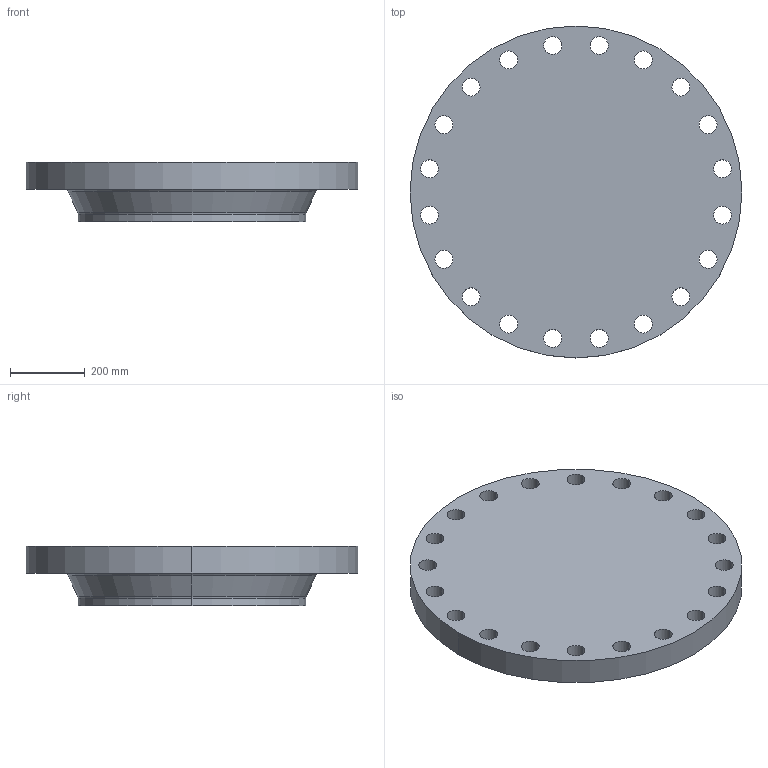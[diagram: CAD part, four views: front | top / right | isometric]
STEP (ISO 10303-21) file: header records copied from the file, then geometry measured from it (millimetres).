
FILE_DESCRIPTION (( 'STEP AP214' ), '1' );
FILE_NAME ('PN40 DN600 Type 21(ii) - Type A Face.STEP', '2018-12-29T04:39:02', ( '' ), ( '' ), 'SwSTEP 2.0', 'SolidWorks 2019', '' );
FILE_SCHEMA (( 'AUTOMOTIVE_DESIGN' ));
Length unit declared in the file: millimetre
Products named in the file (1): PN40 DN600 Type 21(ii) - Type A Face
Bounding box: 890 x 890 x 160 mm (x, y, z)
Volume: 69889345 mm3; surface area: 1713936.3 mm2
Topology: 1 solids, 1 shells, 53 faces, 144 edges, 94 vertices
Faces by surface type: cylinder 44, torus 4, plane 3, cone 2
Entity records: 1842 total; most frequent: DIRECTION 350, CARTESIAN_POINT 292, ORIENTED_EDGE 288, AXIS2_PLACEMENT_3D 152, EDGE_CURVE 144, CIRCLE 98, VERTEX_POINT 94, EDGE_LOOP 94
